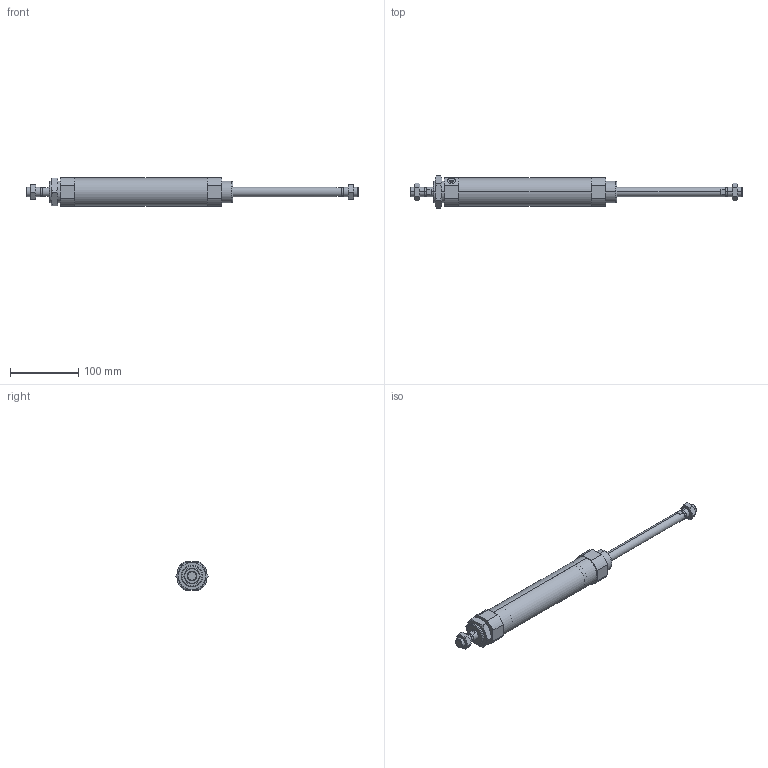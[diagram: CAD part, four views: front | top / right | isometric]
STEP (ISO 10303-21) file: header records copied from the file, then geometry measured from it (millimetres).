
FILE_DESCRIPTION (( 'STEP AP203' ), '1' );
FILE_NAME ('CSM2B40-150-P.STEP', '2020-07-20T16:51:40', ( '' ), ( '' ), 'SwSTEP 2.0', 'SolidWorks 2019', '' );
FILE_SCHEMA (( 'CONFIG_CONTROL_DESIGN' ));
Length unit declared in the file: millimetre
Products named in the file (1): CSM2B40-150-P
Bounding box: 488 x 47.34 x 42.5 mm (x, y, z)
Volume: 241334.2 mm3; surface area: 96743.6 mm2
Topology: 5 solids, 5 shells, 155 faces, 362 edges, 227 vertices
Faces by surface type: plane 63, cylinder 48, cone 44
Entity records: 5727 total; most frequent: CARTESIAN_POINT 2107, DIRECTION 750, ORIENTED_EDGE 720, EDGE_CURVE 360, AXIS2_PLACEMENT_3D 296, VERTEX_POINT 227, EDGE_LOOP 179, LINE 158
